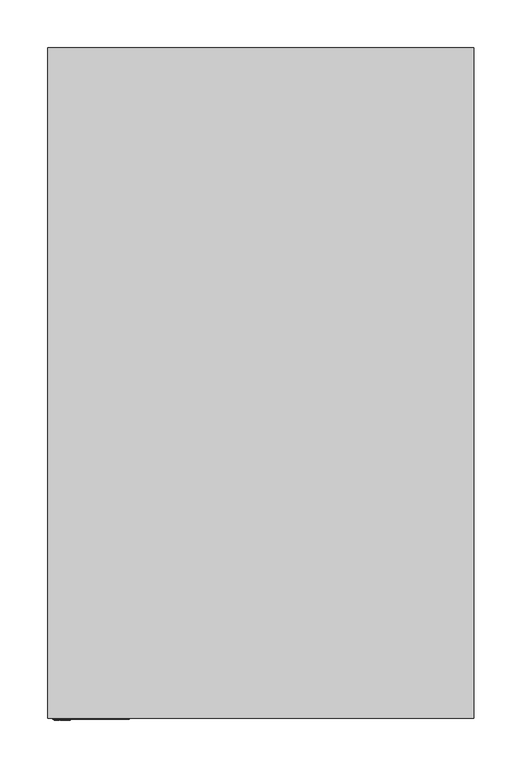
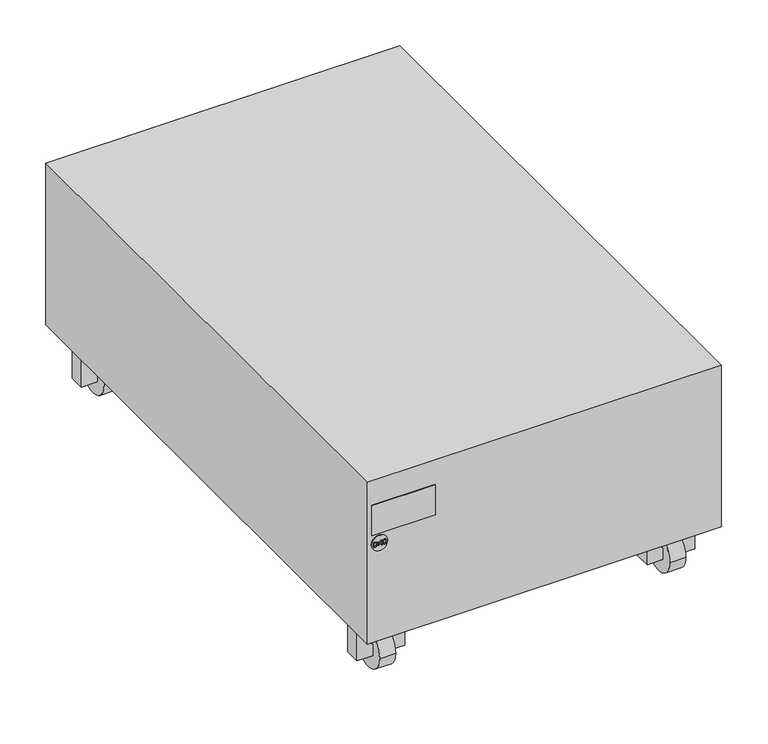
"""IFC4 building model written with IfcOpenShell, lengths in millimetres: proxy geometry, НВО_КНС_ИБПTrioTM_DKC : TRIOTM10A10."""

from ifc_helpers import new_model, si_unit, point, frame, frame_2d, origin, place, context, project, spatial, polyline, circle_curve, trimmed, segment, composite_curve, outline, extrude, source, transform, mapped, element, save


def electrical_equipment_e701efe5(model_context):
    return source(origin(), model_context, "Body", "SweptSolid", [
        extrude(outline(polyline([(50.3347717, -157.1652283), (35.0, -172.5), (20.0, -172.5), (20.0, -152.5), (70.0, -152.5), (70.0, -157.1652283), (50.3347717, -157.1652283)])), frame((0.0, 640.0, 0.0), z_axis=(0.0, 1.0, 0.0), x_axis=(0.0, 0.0, 1.0)), (0.0, 0.0, 1.0), 20.0),
        extrude(outline(polyline([(50.3347717, -207.8347717), (70.0, -207.8347717), (70.0, -212.5), (20.0, -212.5), (20.0, -192.5), (35.0, -192.5), (50.3347717, -207.8347717)])), frame((0.0, 640.0, 0.0), z_axis=(0.0, 1.0, 0.0), x_axis=(0.0, 0.0, 1.0)), (0.0, 0.0, 1.0), 20.0),
        extrude(outline(composite_curve([segment(trimmed(circle_curve(frame_2d((650.0, 25.0)), 25.0), [point((675.0, 25.0))], [point((625.0, 25.0))], False, "CARTESIAN"), True, "CONTINUOUS"), segment(trimmed(circle_curve(frame_2d((650.0, 25.0)), 25.0), [point((625.0, 25.0))], [point((675.0, 25.0))], False, "CARTESIAN"), True, "CONTINUOUS")], self_intersect=False)), frame((-192.5, 0.0, 0.0), z_axis=(1.0, 0.0, 0.0), x_axis=(0.0, 1.0, 0.0)), (0.0, 0.0, 1.0), 20.0),
        extrude(outline(polyline([(50.3347717, -157.1652283), (35.0, -172.5), (20.0, -172.5), (20.0, -152.5), (70.0, -152.5), (70.0, -157.1652283), (50.3347717, -157.1652283)])), frame((0.0, 40.0, 0.0), z_axis=(0.0, 1.0, 0.0), x_axis=(0.0, 0.0, 1.0)), (0.0, 0.0, 1.0), 20.0),
        extrude(outline(polyline([(50.3347717, -207.8347717), (70.0, -207.8347717), (70.0, -212.5), (20.0, -212.5), (20.0, -192.5), (35.0, -192.5), (50.3347717, -207.8347717)])), frame((0.0, 40.0, 0.0), z_axis=(0.0, 1.0, 0.0), x_axis=(0.0, 0.0, 1.0)), (0.0, 0.0, 1.0), 20.0),
        extrude(outline(composite_curve([segment(trimmed(circle_curve(frame_2d((50.0, 25.0)), 25.0), [point((75.0, 25.0))], [point((25.0, 25.0))], False, "CARTESIAN"), True, "CONTINUOUS"), segment(trimmed(circle_curve(frame_2d((50.0, 25.0)), 25.0), [point((25.0, 25.0))], [point((75.0, 25.0))], False, "CARTESIAN"), True, "CONTINUOUS")], self_intersect=False)), frame((-192.5, 0.0, 0.0), z_axis=(1.0, 0.0, 0.0), x_axis=(0.0, 1.0, 0.0)), (0.0, 0.0, 1.0), 20.0),
        extrude(outline(polyline([(50.3347717, 207.8347717), (35.0, 192.5), (20.0, 192.5), (20.0, 212.5), (70.0, 212.5), (70.0, 207.8347717), (50.3347717, 207.8347717)])), frame((0.0, 640.0, 0.0), z_axis=(0.0, 1.0, 0.0), x_axis=(0.0, 0.0, 1.0)), (0.0, 0.0, 1.0), 20.0),
        extrude(outline(polyline([(50.3347717, 157.1652283), (70.0, 157.1652283), (70.0, 152.5), (20.0, 152.5), (20.0, 172.5), (35.0, 172.5), (50.3347717, 157.1652283)])), frame((0.0, 640.0, 0.0), z_axis=(0.0, 1.0, 0.0), x_axis=(0.0, 0.0, 1.0)), (0.0, 0.0, 1.0), 20.0),
        extrude(outline(composite_curve([segment(trimmed(circle_curve(frame_2d((650.0, 25.0)), 25.0), [point((675.0, 25.0))], [point((625.0, 25.0))], False, "CARTESIAN"), True, "CONTINUOUS"), segment(trimmed(circle_curve(frame_2d((650.0, 25.0)), 25.0), [point((625.0, 25.0))], [point((675.0, 25.0))], False, "CARTESIAN"), True, "CONTINUOUS")], self_intersect=False)), frame((172.5, 0.0, 0.0), z_axis=(1.0, 0.0, 0.0), x_axis=(0.0, 1.0, 0.0)), (0.0, 0.0, 1.0), 20.0),
        extrude(outline(polyline([(50.3347717, 207.8347717), (35.0, 192.5), (20.0, 192.5), (20.0, 212.5), (70.0, 212.5), (70.0, 207.8347717), (50.3347717, 207.8347717)])), frame((0.0, 40.0, 0.0), z_axis=(0.0, 1.0, 0.0), x_axis=(0.0, 0.0, 1.0)), (0.0, 0.0, 1.0), 20.0),
        extrude(outline(polyline([(50.3347717, 157.1652283), (70.0, 157.1652283), (70.0, 152.5), (20.0, 152.5), (20.0, 172.5), (35.0, 172.5), (50.3347717, 157.1652283)])), frame((0.0, 40.0, 0.0), z_axis=(0.0, 1.0, 0.0), x_axis=(0.0, 0.0, 1.0)), (0.0, 0.0, 1.0), 20.0),
        extrude(outline(composite_curve([segment(trimmed(circle_curve(frame_2d((50.0, 25.0)), 25.0), [point((75.0, 25.0))], [point((25.0, 25.0))], False, "CARTESIAN"), True, "CONTINUOUS"), segment(trimmed(circle_curve(frame_2d((50.0, 25.0)), 25.0), [point((25.0, 25.0))], [point((75.0, 25.0))], False, "CARTESIAN"), True, "CONTINUOUS")], self_intersect=False)), frame((172.5, 0.0, 0.0), z_axis=(1.0, 0.0, 0.0), x_axis=(0.0, 1.0, 0.0)), (0.0, 0.0, 1.0), 20.0),
        extrude(outline(polyline([(197.0, -215.6463789), (197.0, -213.467046), (197.103007, -212.4980448), (197.9520786, -211.2273804), (198.829845, -210.8153525), (200.0460629, -210.654956), (201.4793312, -210.891872), (202.5094008, -211.6055631), (202.9405585, -212.4914229), (203.0273786, -213.5671099), (203.0273786, -215.6463789), (197.0, -215.6463789)]), holes=[polyline([(197.7534223, -214.8929566), (202.2739563, -214.8929566), (202.2739563, -213.5803536), (202.153291, -212.5120243), (201.4852173, -211.7299072), (200.0578351, -211.4083783), (198.9181367, -211.5724537), (197.8623154, -212.5900153), (197.7534223, -213.5597522), (197.7534223, -214.8929566)])]), frame((0.0, -2.0, 0.0), z_axis=(0.0, 1.0, 0.0), x_axis=(0.0, 0.0, 1.0)), (0.0, 0.0, 1.0), 6.0),
        extrude(outline(polyline([(197.0, -209.2422891), (199.0719114, -208.865578), (200.0401768, -207.8502237), (197.0, -205.5487539), (197.0, -204.6275774), (200.5493255, -207.316059), (203.0273786, -204.7217552), (203.0273786, -205.7753692), (200.076965, -208.865578), (203.0273786, -209.6190003), (197.0, -209.2422891)])), frame((0.0, -2.0, 0.0), z_axis=(0.0, 1.0, 0.0), x_axis=(0.0, 0.0, 1.0)), (0.0, 0.0, 1.0), 6.0),
        extrude(outline(polyline([(199.1425447, -199.8245101), (198.0330126, -200.463889), (197.6592445, -201.6168311), (197.9336845, -202.6564657), (198.7628905, -203.3642706), (200.0607782, -203.5916217), (201.180611, -203.3995873), (202.0458694, -202.7337209), (202.3681341, -201.555027), (202.0775073, -200.5367296), (201.3307068, -199.1652655), (202.652139, -200.0165445), (203.1215564, -201.5255964), (202.7588248, -202.9735799), (201.6971173, -203.9881985), (200.0593067, -204.345044), (198.4479835, -204.0294013), (197.3016632, -203.1096963), (196.9058222, -201.5417832), (197.4289504, -199.9643052), (199.1425447, -199.8245101)])), frame((0.0, -2.0, 0.0), z_axis=(0.0, 1.0, 0.0), x_axis=(0.0, 0.0, 1.0)), (0.0, 0.0, 1.0), 6.0),
        extrude(outline(composite_curve([segment(trimmed(circle_curve(frame_2d((200.0, -207.5)), 10.0), [point((200.0, -217.5))], [point((200.0, -197.5))], False, "CARTESIAN"), True, "CONTINUOUS"), segment(trimmed(circle_curve(frame_2d((200.0, -207.5)), 10.0), [point((200.0, -197.5))], [point((200.0, -217.5))], False, "CARTESIAN"), True, "CONTINUOUS")], self_intersect=False)), frame((0.0, -1.0, 0.0), z_axis=(0.0, 1.0, 0.0), x_axis=(0.0, 0.0, 1.0)), (0.0, 0.0, 1.0), 10.0),
        extrude(outline(polyline([(222.5, 0.0), (-222.5, 0.0), (-222.5, 700.0), (222.5, 700.0), (222.5, 0.0)])), frame((0.0, 0.0, 70.0), z_axis=(0.0, 0.0, 1.0), x_axis=(1.0, 0.0, 0.0)), (0.0, 0.0, 1.0), 215.0),
        extrude(outline(polyline([(-137.5, -1.0), (-217.5, -1.0), (-217.5, 0.0), (-137.5, 0.0), (-137.5, -1.0)])), frame((0.0, 0.0, 213.0), z_axis=(0.0, 0.0, 1.0), x_axis=(1.0, 0.0, 0.0)), (0.0, 0.0, 1.0), 40.0),
    ])


if __name__ == "__main__":
    model = new_model("IFC4")
    model_context = context("Model", 3, world=origin())
    ifc_project = project(units=[si_unit("LENGTHUNIT", "METRE", prefix="MILLI")], contexts=[model_context])
    site = spatial("IfcSite", under=ifc_project)
    building = spatial("IfcBuilding", under=site)
    placement = place(None, origin())
    electrical_equipment_shape = electrical_equipment_e701efe5(model_context)
    element("IfcBuildingElementProxy", 1, Name="НВО_КНС_ИБПTrioTM_DKC : TRIOTM10A10", ObjectType="НВО_КНС_ИБПTrioTM_DKC : TRIOTM10A10", at=placement, inside=building, context=model_context, shape_type="MappedRepresentation", body=[
        mapped(electrical_equipment_shape, transform((0.0, 0.0, 0.0), x_axis=(1.0, 0.0, 0.0), y_axis=(0.0, 1.0, 0.0), z_axis=(0.0, 0.0, 1.0))),
    ])
    save(model, "model.ifc")
